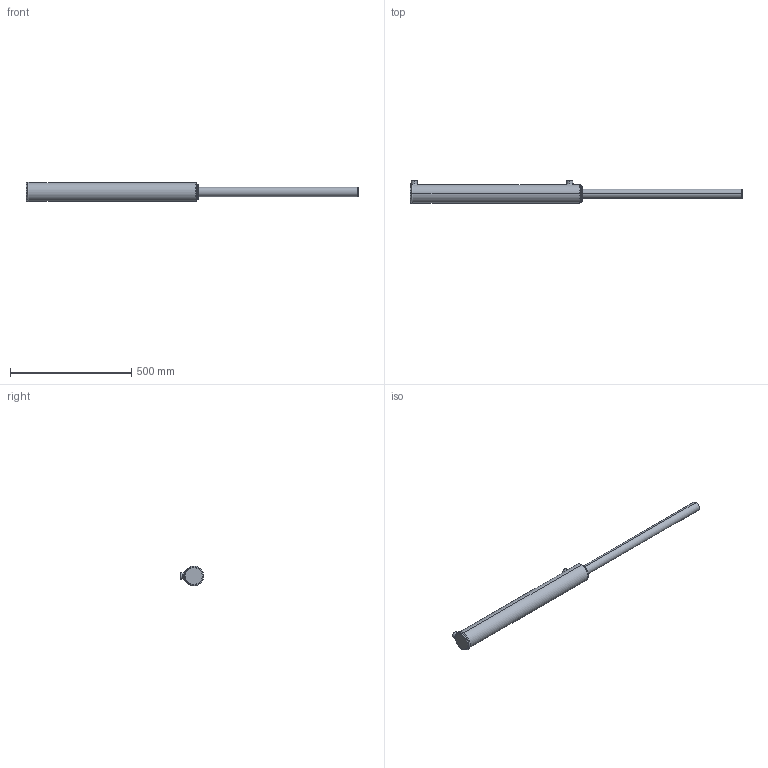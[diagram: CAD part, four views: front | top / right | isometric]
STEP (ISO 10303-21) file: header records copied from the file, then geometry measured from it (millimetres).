
FILE_DESCRIPTION (( 'STEP AP203' ), '1' );
FILE_NAME ('BL250150x610 (24) extended.STEP', '2014-11-25T02:12:28', ( '' ), ( '' ), 'SwSTEP 2.0', 'SolidWorks 2014', '' );
FILE_SCHEMA (( 'CONFIG_CONTROL_DESIGN' ));
Length unit declared in the file: millimetre
Products named in the file (3): BL body 2.5_2.5x24; Spare_2.5x24; BL250150x610 (24) extended
Assembly tree (2 placements, depth 2):
  BL250150x610 (24) extended
    BL body 2.5_2.5x24
    Spare_2.5x24
Bounding box: 1371 x 97.2 x 82.2 mm (x, y, z)
Volume: 3829933.2 mm3; surface area: 308267.6 mm2
Topology: 2 solids, 2 shells, 88 faces, 205 edges, 126 vertices
Faces by surface type: cylinder 32, plane 20, torus 18, bspline 10, cone 8
Entity records: 5772 total; most frequent: CARTESIAN_POINT 3521, DIRECTION 422, ORIENTED_EDGE 402, EDGE_CURVE 201, AXIS2_PLACEMENT_3D 182, VERTEX_POINT 126, EDGE_LOOP 101, CIRCLE 99
